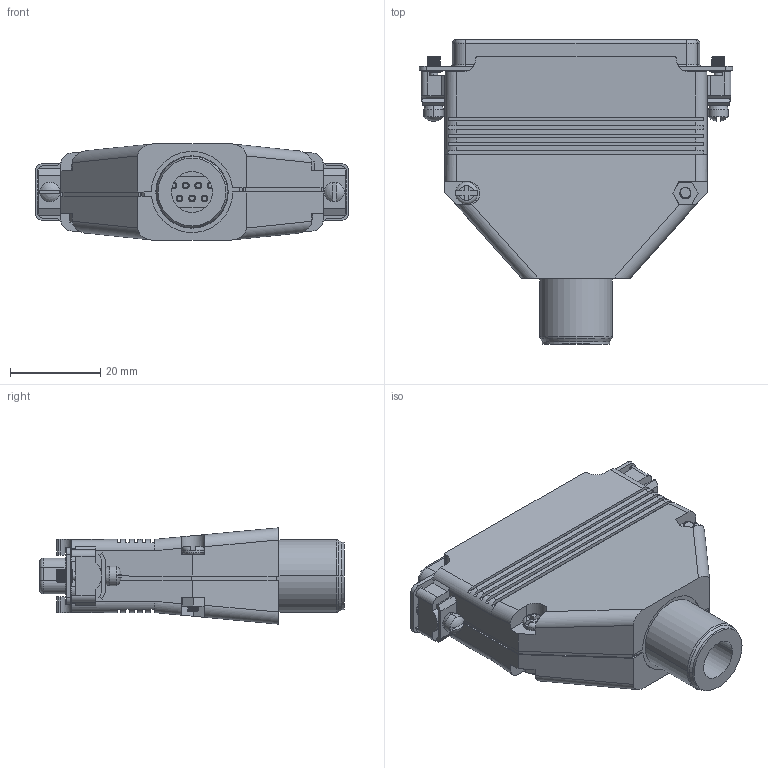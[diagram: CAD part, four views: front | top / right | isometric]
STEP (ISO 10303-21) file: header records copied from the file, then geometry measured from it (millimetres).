
FILE_DESCRIPTION((''),'2;1');
FILE_NAME('CU_TB-37F-37SC','2013-03-06T',('dkendric'),(''),'PRO/ENGINEER BY PARAMETRIC TECHNOLOGY CORPORATION, 2011490','PRO/ENGINEER BY PARAMETRIC TECHNOLOGY CORPORATION, 2011490','');
FILE_SCHEMA(('CONFIG_CONTROL_DESIGN'));
Products named in the file (1): CU_TB-37F-37SC
Bounding box: 69.32 x 67.31 x 21.3 mm (x, y, z)
Volume: 22939.8 mm3; surface area: 23030 mm2
Topology: 1 solids, 1 shells, 1262 faces, 3190 edges, 2018 vertices
Faces by surface type: cylinder 562, plane 530, cone 80, bspline 52, torus 34, sphere 4
Entity records: 56851 total; most frequent: CARTESIAN_POINT 27817, ORIENTED_EDGE 6380, DIRECTION 5451, EDGE_CURVE 3190, VERTEX_POINT 2018, AXIS2_PLACEMENT_3D 1974, VECTOR 1503, LINE 1503
